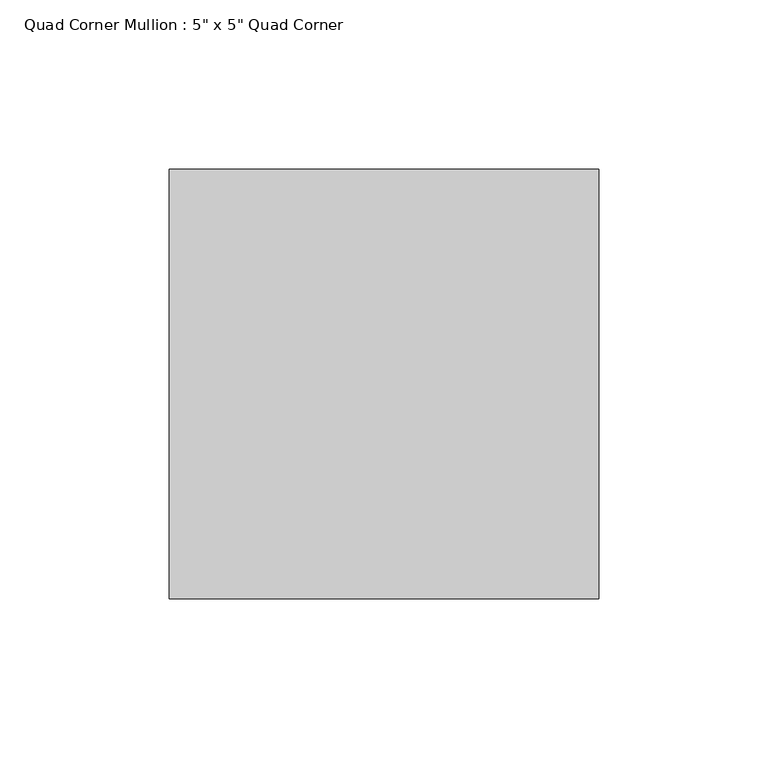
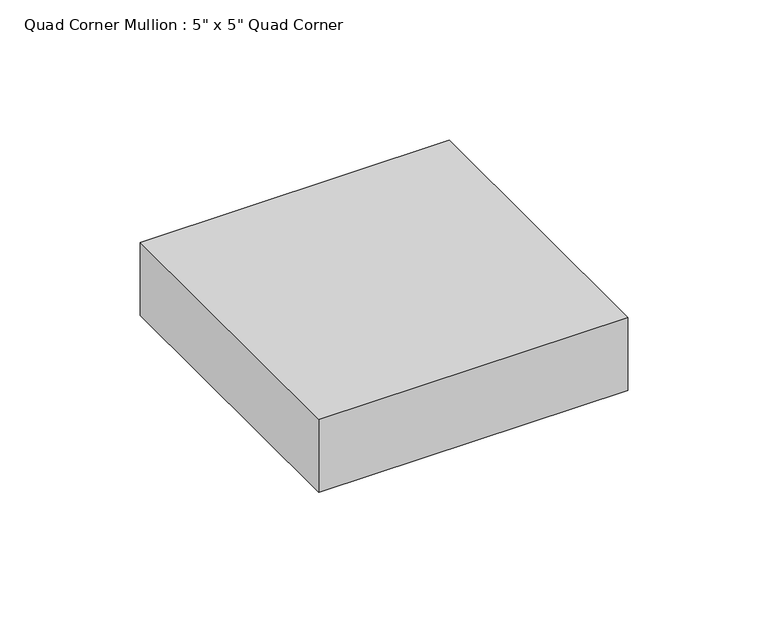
"""IFC4 building model written with IfcOpenShell, lengths in millimetres: member geometry."""

import ifcopenshell
import ifcopenshell.guid

model = None  # the IFC model being written
_history = None  # IfcOwnerHistory: only IFC2X3 demands one
_inside = {}  # id of a spatial element -> (the spatial element, [elements in it])
_under = {}  # id of a project, library or spatial element -> (it, [spatial elements below it])
_declared = {}  # id of a project -> (the project, [libraries it declares])
_typed = {}  # id of a type object -> (the type object, [elements of that type])
_made_of = {}  # id of a material, layer set ... -> (it, [elements and type objects made of it])


def new_model(schema):
    """Start an empty IFC model of exactly this schema.

    Asked for "IFC4X3", IfcOpenShell would pick the latest addendum, in which some entities
    have other attributes; the version numbers below select the first issue.
    IFC2X3 requires an IfcOwnerHistory on every rooted entity: one is made here for all.
    """
    global model, _history
    if schema == "IFC4X3":
        model = ifcopenshell.file(schema_version=(4, 3, 0, 0))
    else:
        model = ifcopenshell.file(schema=schema)
    _inside.clear()
    _under.clear()
    _declared.clear()
    _typed.clear()
    _made_of.clear()
    _history = None
    if model.schema == "IFC2X3":
        org = make("IfcOrganization", Name="unknown")
        user = make(
            "IfcPersonAndOrganization",
            ThePerson=make("IfcPerson", FamilyName="unknown"),
            TheOrganization=org,
        )
        app = make(
            "IfcApplication",
            ApplicationDeveloper=org,
            Version="unknown",
            ApplicationFullName="unknown",
            ApplicationIdentifier="unknown",
        )
        _history = make(
            "IfcOwnerHistory",
            OwningUser=user,
            OwningApplication=app,
            ChangeAction="ADDED",
            CreationDate=0,
        )
    return model


def make(cls, **values):
    """One entity of the class cls with the attributes given. An attribute that is None is left unset."""
    return model.create_entity(
        cls, **{name: value for name, value in values.items() if value is not None}
    )


def rooted(cls, **values):
    """An entity with a GlobalId (a new one), such as an element, a storey or a relation."""
    return make(cls, GlobalId=ifcopenshell.guid.new(), OwnerHistory=_history, **values)


def si_unit(unit_type, name, prefix=None):
    """IfcSIUnit, for example si_unit("LENGTHUNIT", "METRE", prefix="MILLI")."""
    return make("IfcSIUnit", UnitType=unit_type, Prefix=prefix, Name=name)


def assignment(units):
    """IfcUnitAssignment: the units of a project."""
    return None if units is None else make("IfcUnitAssignment", Units=units)


def point(xyz):
    """IfcCartesianPoint."""
    return None if xyz is None else make("IfcCartesianPoint", Coordinates=xyz)


def direction(xyz):
    """IfcDirection."""
    return None if xyz is None else make("IfcDirection", DirectionRatios=xyz)


def frame(location, z_axis=None, x_axis=None):
    """IfcAxis2Placement3D, a coordinate frame: its origin and axes. An axis left out is left unset."""
    return make(
        "IfcAxis2Placement3D",
        Location=point(location),
        Axis=direction(z_axis),
        RefDirection=direction(x_axis),
    )


def origin():
    """The frame at (0, 0, 0) with its axes left unset."""
    return frame((0.0, 0.0, 0.0))


def place(relative_to, where):
    """IfcLocalPlacement: puts the frame where relative to a parent placement (None: the world)."""
    return make(
        "IfcLocalPlacement", PlacementRelTo=relative_to, RelativePlacement=where
    )


def context(
    kind, dimensions, precision=None, world=None, true_north=None, identifier=None
):
    """IfcGeometricRepresentationContext, for example the 3D "Model" context."""
    return make(
        "IfcGeometricRepresentationContext",
        ContextIdentifier=identifier,
        ContextType=kind,
        CoordinateSpaceDimension=dimensions,
        Precision=precision,
        WorldCoordinateSystem=world,
        TrueNorth=true_north,
    )


def project(units=None, contexts=None):
    """IfcProject with its units and contexts."""
    return rooted(
        "IfcProject",
        Name="project",
        RepresentationContexts=contexts,
        UnitsInContext=assignment(units),
    )


def spatial(cls, under=None, at=None, **own):
    """A site, building, storey or space (cls), placed at a placement, below another one or the project."""
    s = rooted(cls, ObjectPlacement=at, **own)
    if under is not None:
        _under.setdefault(under.id(), (under, []))[1].append(s)
    return s


def polyline(points):
    """IfcPolyline through the points."""
    return make("IfcPolyline", Points=[point(p) for p in points])


def outline(outer, holes=None, kind="AREA"):
    """IfcArbitraryClosedProfileDef: a profile drawn as a closed curve; with holes, ...WithVoids."""
    if holes is None:
        return make("IfcArbitraryClosedProfileDef", ProfileType=kind, OuterCurve=outer)
    return make(
        "IfcArbitraryProfileDefWithVoids",
        ProfileType=kind,
        OuterCurve=outer,
        InnerCurves=holes,
    )


def extrude(swept, where, along, depth):
    """IfcExtrudedAreaSolid: the profile swept, set in the frame where, extruded along a direction by depth."""
    return make(
        "IfcExtrudedAreaSolid",
        SweptArea=swept,
        Position=where,
        ExtrudedDirection=direction(along),
        Depth=depth,
    )


def shape(context_of_items, identifier, shape_type, items):
    """IfcShapeRepresentation: the items that make up one representation, for example the "Body"."""
    return make(
        "IfcShapeRepresentation",
        ContextOfItems=context_of_items,
        RepresentationIdentifier=identifier,
        RepresentationType=shape_type,
        Items=items,
    )


def source(mapping_origin, context_of_items, identifier, shape_type, items):
    """IfcRepresentationMap: a shape defined once, which mapped items show again and again."""
    return make(
        "IfcRepresentationMap",
        MappingOrigin=mapping_origin,
        MappedRepresentation=shape(context_of_items, identifier, shape_type, items),
    )


def transform(
    local_origin,
    x_axis=None,
    y_axis=None,
    z_axis=None,
    scale=None,
    scale2=None,
    scale3=None,
    uniform=True,
):
    """IfcCartesianTransformationOperator3D, or its non-uniform kind. x_axis, y_axis, z_axis: its Axis1, 2, 3."""
    if uniform:
        return make(
            "IfcCartesianTransformationOperator3D",
            Axis1=direction(x_axis),
            Axis2=direction(y_axis),
            LocalOrigin=point(local_origin),
            Scale=scale,
            Axis3=direction(z_axis),
        )
    return make(
        "IfcCartesianTransformationOperator3DnonUniform",
        Axis1=direction(x_axis),
        Axis2=direction(y_axis),
        LocalOrigin=point(local_origin),
        Scale=scale,
        Axis3=direction(z_axis),
        Scale2=scale2,
        Scale3=scale3,
    )


def mapped(mapping_source, mapping_target):
    """IfcMappedItem: shows the shape of a source again, moved by a transform."""
    return make(
        "IfcMappedItem", MappingSource=mapping_source, MappingTarget=mapping_target
    )


def made_of(thing, what):
    """Note that an element or type object is made of a material, layer set ...; save() writes the relation."""
    if what is not None:
        _made_of.setdefault(what.id(), (what, []))[1].append(thing)
    return thing


def element(
    cls,
    number,
    at=None,
    inside=None,
    cuts=None,
    type_object=None,
    material=None,
    context=None,
    identifier="Body",
    shape_type=None,
    held_by="IfcProductDefinitionShape",
    body=None,
    shapes=None,
    **own,
):
    """One element of the class cls, such as IfcWall. Its Tag is "e" and its number.

    at: its placement. inside: the storey or other place that contains it. cuts: it is an
    opening in that element (IfcRelVoidsElement). A single representation is given by context,
    identifier, shape_type and body (its items); several are given by shapes. held_by: the class
    of the entity that holds the representations. save() writes the other relations.
    """
    e = rooted(cls, Tag="e%d" % number, ObjectPlacement=at, **own)
    if body is not None:
        shapes = [shape(context, identifier, shape_type, body)]
    if shapes is not None:
        e.Representation = make(held_by, Representations=shapes)
    if inside is not None:
        _inside.setdefault(inside.id(), (inside, []))[1].append(e)
    if cuts is not None:
        rooted(
            "IfcRelVoidsElement", RelatingBuildingElement=cuts, RelatedOpeningElement=e
        )
    if type_object is not None:
        _typed.setdefault(type_object.id(), (type_object, []))[1].append(e)
    return made_of(e, material)


def aggregate(whole, parts):
    """IfcRelAggregates: a whole, such as a stair, and the parts it consists of."""
    return rooted("IfcRelAggregates", RelatingObject=whole, RelatedObjects=parts)


def save(model, path):
    """Write the relations noted so far, then the file.

    IfcRelAggregates (storeys below a building ...), IfcRelContainedInSpatialStructure (elements
    in a storey), IfcRelDefinesByType, IfcRelAssociatesMaterial and IfcRelDeclares: one each for
    every whole, place, type object, material and project.
    """
    for whole, parts in _under.values():
        aggregate(whole, parts)
    for where, things in _inside.values():
        rooted(
            "IfcRelContainedInSpatialStructure",
            RelatedElements=things,
            RelatingStructure=where,
        )
    for kind, things in _typed.values():
        rooted("IfcRelDefinesByType", RelatedObjects=things, RelatingType=kind)
    for what, things in _made_of.values():
        rooted("IfcRelAssociatesMaterial", RelatedObjects=things, RelatingMaterial=what)
    for by, libraries in _declared.values():
        rooted("IfcRelDeclares", RelatingContext=by, RelatedDefinitions=libraries)
    model.write(path)


def member_230d3ecf(model_context):
    return source(origin(), model_context, "Body", "SweptSolid", [
        extrude(outline(polyline([(63.5, 63.5), (63.5, -63.5), (-63.5, -63.5), (-63.5, 63.5), (63.5, 63.5)])), frame((0.0, 0.0, -31.75), z_axis=(0.0, 0.0, 1.0), x_axis=(1.0, 0.0, 0.0)), (0.0, 0.0, 1.0), 31.75),
    ])


if __name__ == "__main__":
    model = new_model("IFC4")
    model_context = context("Model", 3, world=origin())
    ifc_project = project(units=[si_unit("LENGTHUNIT", "METRE", prefix="MILLI")], contexts=[model_context])
    site = spatial("IfcSite", under=ifc_project)
    building = spatial("IfcBuilding", under=site)
    placement = place(None, origin())
    member_shape = member_230d3ecf(model_context)
    element("IfcMember", 1, ObjectType="Quad Corner Mullion : 5\" x 5\" Quad Corner", at=placement, inside=building, context=model_context, shape_type="MappedRepresentation", body=[
        mapped(member_shape, transform((0.0, 0.0, 0.0), x_axis=(1.0, 0.0, 0.0), y_axis=(0.0, 1.0, 0.0), z_axis=(0.0, 0.0, 1.0))),
    ])
    save(model, "model.ifc")
